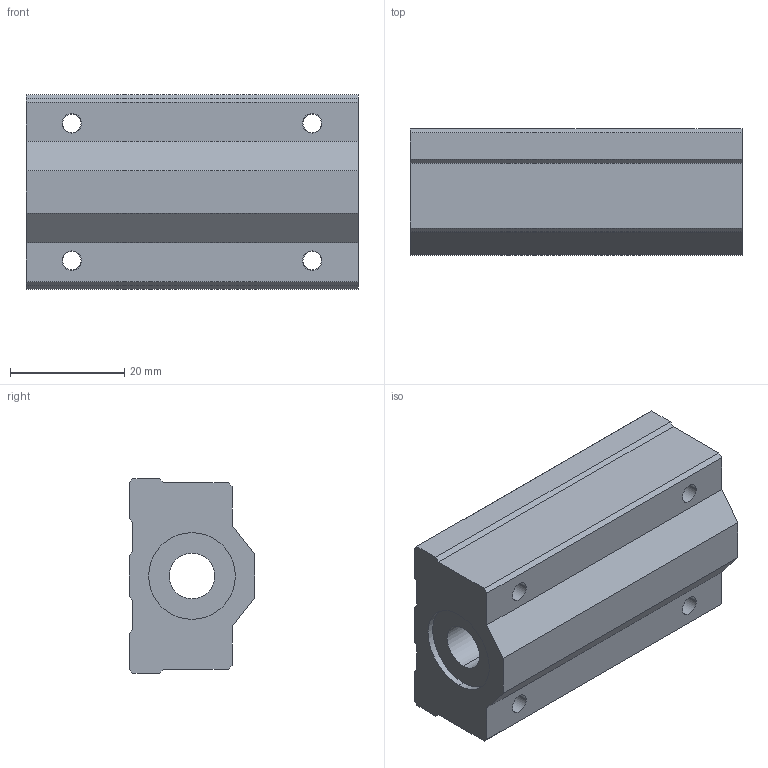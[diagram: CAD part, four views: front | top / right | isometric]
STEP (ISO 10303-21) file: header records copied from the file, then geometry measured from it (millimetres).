
FILE_DESCRIPTION(('FreeCAD Model'),'2;1');
FILE_NAME('Open CASCADE Shape Model','2021-05-03T09:07:11',('Author'),( ''),'Open CASCADE STEP processor 7.5','FreeCAD','Unknown');
FILE_SCHEMA(('AUTOMOTIVE_DESIGN { 1 0 10303 214 1 1 1 1 }'));
Length unit declared in the file: millimetre
Products named in the file (1): ball_bearing_sc8luu
Bounding box: 58 x 22 x 34 mm (x, y, z)
Volume: 32837.8 mm3; surface area: 14221.5 mm2
Topology: 1 solids, 2 shells, 102 faces, 257 edges, 169 vertices
Faces by surface type: cylinder 44, plane 42, cone 8, torus 8
Entity records: 7221 total; most frequent: CARTESIAN_POINT 1503, DIRECTION 1032, LINE 544, VECTOR 544, ORIENTED_EDGE 514, PCURVE 514, DEFINITIONAL_REPRESENTATION 514, EDGE_CURVE 257
